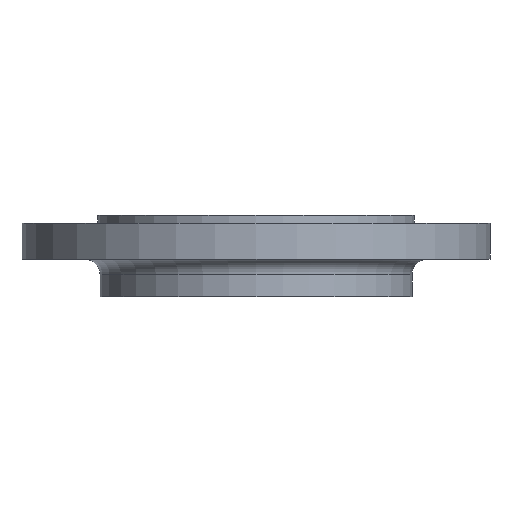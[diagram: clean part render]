
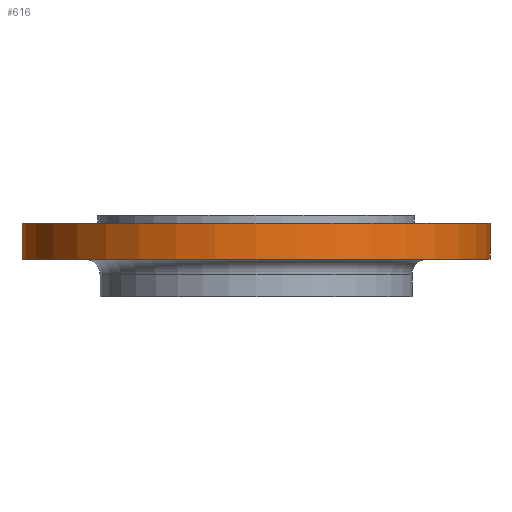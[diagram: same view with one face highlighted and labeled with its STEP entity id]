
A CAD part, front view. The second image highlights one B-rep face of the part: STEP entity #616.
In plain terms, the highlighted cylindrical face has radius 150 mm (diameter 300 mm), a partial arc.
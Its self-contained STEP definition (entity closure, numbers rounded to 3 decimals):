
#29 = VERTEX_POINT ( 'NONE', #399 ) ;
#45 = EDGE_LOOP ( 'NONE', ( #921, #923, #926, #927 ) ) ;
#64 = EDGE_CURVE ( 'NONE', #889, #1089, #420, .T. ) ;
#65 = EDGE_CURVE ( 'NONE', #1089, #350, #959, .T. ) ;
#71 = AXIS2_PLACEMENT_3D ( 'NONE', #455, #456, #460 ) ;
#75 = EDGE_CURVE ( 'NONE', #29, #889, #628, .T. ) ;
#128 = LINE ( 'NONE', #527, #540 ) ;
#179 = AXIS2_PLACEMENT_3D ( 'NONE', #477, #479, #485 ) ;
#245 = CARTESIAN_POINT ( 'NONE',  ( 0., 0., -85. ) ) ;
#350 = VERTEX_POINT ( 'NONE', #377 ) ;
#377 = CARTESIAN_POINT ( 'NONE',  ( -150., 0., -5. ) ) ;
#399 = CARTESIAN_POINT ( 'NONE',  ( -150., 0., -28. ) ) ;
#420 = LINE ( 'NONE', #423, #567 ) ;
#423 = CARTESIAN_POINT ( 'NONE',  ( 150., 0., -85. ) ) ;
#424 = DIRECTION ( 'NONE',  ( 0., 0., 1. ) ) ;
#455 = CARTESIAN_POINT ( 'NONE',  ( 0., 0., -5. ) ) ;
#456 = DIRECTION ( 'NONE',  ( 0., 0., -1. ) ) ;
#460 = DIRECTION ( 'NONE',  ( -1., 0., 0. ) ) ;
#477 = CARTESIAN_POINT ( 'NONE',  ( 0., 0., -28. ) ) ;
#479 = DIRECTION ( 'NONE',  ( 0., 0., 1. ) ) ;
#485 = DIRECTION ( 'NONE',  ( 1., 0., 0. ) ) ;
#527 = CARTESIAN_POINT ( 'NONE',  ( -150., 0., -85. ) ) ;
#540 = VECTOR ( 'NONE', #751, 1000. ) ;
#567 = VECTOR ( 'NONE', #424, 1000. ) ;
#588 = AXIS2_PLACEMENT_3D ( 'NONE', #245, #611, #825 ) ;
#611 = DIRECTION ( 'NONE',  ( 0., 0., 1. ) ) ;
#616 = ADVANCED_FACE ( 'NONE', ( #660 ), #948, .T. ) ;
#625 = CARTESIAN_POINT ( 'NONE',  ( 150., 0., -5. ) ) ;
#628 = CIRCLE ( 'NONE', #179, 150. ) ;
#660 = FACE_OUTER_BOUND ( 'NONE', #45, .T. ) ;
#751 = DIRECTION ( 'NONE',  ( 0., 0., 1. ) ) ;
#825 = DIRECTION ( 'NONE',  ( 1., 0., 0. ) ) ;
#885 = EDGE_CURVE ( 'NONE', #29, #350, #128, .T. ) ;
#889 = VERTEX_POINT ( 'NONE', #1029 ) ;
#921 = ORIENTED_EDGE ( 'NONE', *, *, #885, .F. ) ;
#923 = ORIENTED_EDGE ( 'NONE', *, *, #75, .T. ) ;
#926 = ORIENTED_EDGE ( 'NONE', *, *, #64, .T. ) ;
#927 = ORIENTED_EDGE ( 'NONE', *, *, #65, .T. ) ;
#948 = CYLINDRICAL_SURFACE ( 'NONE', #588, 150. ) ;
#959 = CIRCLE ( 'NONE', #71, 150. ) ;
#1029 = CARTESIAN_POINT ( 'NONE',  ( 150., 0., -28. ) ) ;
#1089 = VERTEX_POINT ( 'NONE', #625 ) ;
